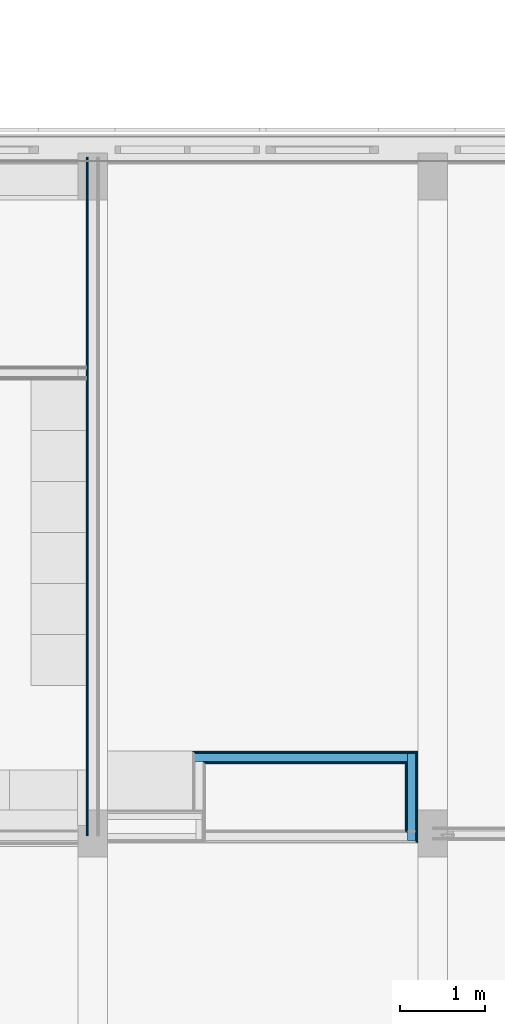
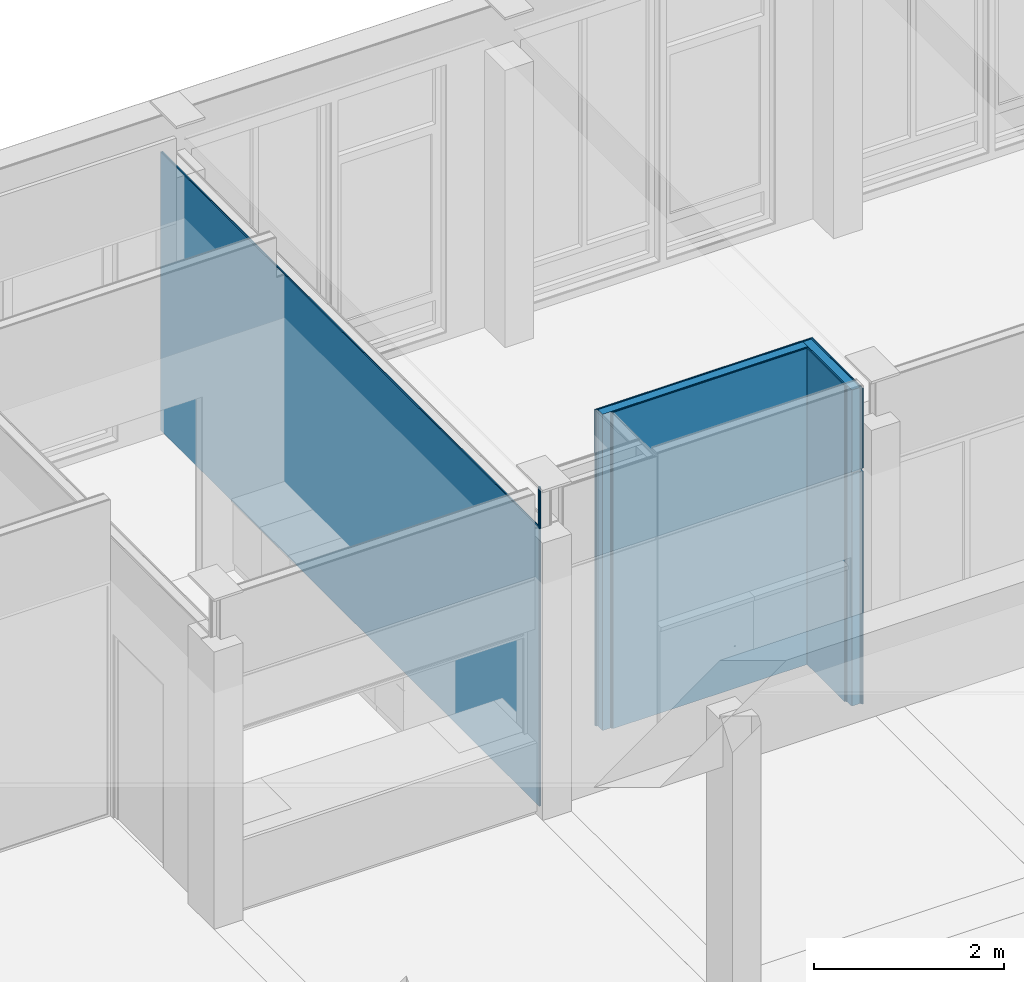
# One storey, part 70 of 109: 12 building element parts, 3 elements without a shape of their own.
"""IFC2X3 building model written with IfcOpenShell, lengths in millimetres."""

from ifc_helpers import new_model, entity, si_unit, converted_unit, derived_unit, money_unit, direction, frame, origin_with_axes, place, context, subcontext, project, spatial, faceted_brep, material, type_object, element, aggregate, save


model = new_model("IFC2X3")

# Units and contexts
model_context = context("Model", 3, precision=0.01, world=origin_with_axes(), true_north=direction((0.0, 1.0)))
body_context = subcontext(model_context, "Body", "Model", "MODEL_VIEW")
ifc_project = project(units=[si_unit("LENGTHUNIT", "METRE", prefix="MILLI"), si_unit("AREAUNIT", "SQUARE_METRE"), si_unit("VOLUMEUNIT", "CUBIC_METRE"), converted_unit("PLANEANGLEUNIT", "DEGREE", entity("IfcPlaneAngleMeasure", 0.0174532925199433), si_unit("PLANEANGLEUNIT", "RADIAN"), dimensions=[0, 0, 0, 0, 0, 0, 0]), money_unit("EUR"), converted_unit("TIMEUNIT", "Year", entity("IfcTimeMeasure", 31557600.0), si_unit("TIMEUNIT", "SECOND"), dimensions=[0, 0, 1, 0, 0, 0, 0]), si_unit("MASSUNIT", "GRAM", prefix="KILO"), si_unit("THERMODYNAMICTEMPERATUREUNIT", "DEGREE_CELSIUS"), si_unit("LUMINOUSINTENSITYUNIT", "LUMEN"), si_unit("ENERGYUNIT", "JOULE", prefix="MEGA"), derived_unit("THERMALCONDUCTANCEUNIT", [(si_unit("POWERUNIT", "WATT"), 1), (si_unit("LENGTHUNIT", "METRE"), -1), (si_unit("THERMODYNAMICTEMPERATUREUNIT", "KELVIN"), -1)]), derived_unit("SPECIFICHEATCAPACITYUNIT", [(si_unit("ENERGYUNIT", "JOULE"), 1), (si_unit("MASSUNIT", "GRAM", prefix="KILO"), -1), (si_unit("THERMODYNAMICTEMPERATUREUNIT", "KELVIN"), -1)]), derived_unit("MASSDENSITYUNIT", [(si_unit("MASSUNIT", "GRAM", prefix="KILO"), 1), (si_unit("VOLUMEUNIT", "CUBIC_METRE"), -1)])], contexts=[model_context])

# Site, building, storey
site_placement = place(None, origin_with_axes())
site = spatial("IfcSite", under=ifc_project, at=site_placement, Name="<site naam>", CompositionType="ELEMENT")
building_placement = place(site_placement, origin_with_axes())
building = spatial("IfcBuilding", under=site, at=building_placement, Name="<Naam gebouw>", CompositionType="ELEMENT")
storey_placement = place(building_placement, origin_with_axes())
storey = spatial("IfcBuildingStorey", under=building, at=storey_placement, Name="00 Begane grond", CompositionType="ELEMENT", Elevation=0.0)

# Wall, building element parts
wall_type = type_object("IfcWallType", Name="MS-01 GF 150 ECO DGS/2.100.2.A 150", PredefinedType="NOTDEFINED")
wall_1_placement = place(storey_placement, frame((28000.00000000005, 19953.886585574, 0.0), z_axis=(0.0, 0.0, 1.0), x_axis=(0.0, -1.0, 0.0)))
wall_1 = element("IfcWall", 1, at=wall_1_placement, inside=storey, type_object=wall_type, Name="22_Binnenwand_MS-01")
ifc_material_1 = material(Name="gipsplaat")
building_element_part_1_placement = place(wall_1_placement, origin_with_axes())
building_element_part_1 = element("IfcBuildingElementPart", 2, at=building_element_part_1_placement, material=ifc_material_1, Name="gipsplaat", context=body_context, shape_type="Brep", body=[
    faceted_brep([(0.0, -62.5, 3585.000000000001), (0.0, -50.00000000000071, 3585.000000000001), (0.0, -50.00000000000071, 0.0), (0.0, -62.5, 0.0), (7953.88658557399, -50.00000000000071, 3585.000000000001), (7953.88658557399, -62.5, 3585.000000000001), (7953.88658557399, -50.00000000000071, 4100.000000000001), (7982.269769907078, -50.00000000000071, 4100.000000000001), (7982.269769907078, -50.00000000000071, 0.0), (7982.269769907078, -62.5, 0.0), (7982.269769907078, -62.5, 4100.000000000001), (7953.88658557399, -62.5, 4100.000000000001)], [[[0, 1, 2, 3]], [[4, 1, 0, 5]], [[4, 6, 7, 8, 2, 1]], [[3, 2, 8, 9]], [[5, 0, 3, 9, 10, 11]], [[11, 6, 4, 5]], [[6, 11, 10, 7]], [[8, 7, 10, 9]]]),
])
building_element_part_2_placement = place(wall_1_placement, origin_with_axes())
building_element_part_2 = element("IfcBuildingElementPart", 3, at=building_element_part_2_placement, material=ifc_material_1, Name="gipsplaat", context=body_context, shape_type="Brep", body=[
    faceted_brep([(0.0, -74.99999999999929, 3585.000000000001), (0.0, -62.5, 3585.000000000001), (0.0, -62.5, 0.0), (0.0, -74.99999999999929, 0.0), (7953.88658557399, -62.5, 3585.000000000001), (7953.88658557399, -74.99999999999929, 3585.000000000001), (7953.88658557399, -62.5, 4100.000000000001), (7982.269769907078, -62.5, 4100.000000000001), (7982.269769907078, -62.5, 0.0), (7982.269769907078, -74.99999999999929, 0.0), (7982.269769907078, -74.99999999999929, 4100.000000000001), (7953.88658557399, -74.99999999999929, 4100.000000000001)], [[[0, 1, 2, 3]], [[4, 1, 0, 5]], [[4, 6, 7, 8, 2, 1]], [[3, 2, 8, 9]], [[5, 0, 3, 9, 10, 11]], [[11, 6, 4, 5]], [[6, 11, 10, 7]], [[8, 7, 10, 9]]]),
])
aggregate(wall_1, [building_element_part_1, building_element_part_2])

wall_2_placement = place(storey_placement, frame((31824.38242510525, 11964.67036517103, 0.0), z_axis=(0.0, 0.0, 1.0), x_axis=(0.0, 1.0, 0.0)))
wall_2 = element("IfcWall", 4, at=wall_2_placement, inside=storey, type_object=wall_type, Name="22_Binnenwand_MS-01")
building_element_part_3_placement = place(wall_2_placement, origin_with_axes())
building_element_part_3 = element("IfcBuildingElementPart", 5, at=building_element_part_3_placement, material=ifc_material_1, Name="gipsplaat", context=body_context, shape_type="Brep", body=[
    faceted_brep([(867.0793248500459, 149.9999999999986, 0.0), (867.0793248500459, 137.4999999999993, 0.0), (62.5, 137.4999999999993, 0.0), (62.5, 149.9999999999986, 0.0), (867.0793248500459, 149.9999999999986, 4070.0), (867.0793248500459, 137.4999999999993, 4070.0), (62.5, 137.4999999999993, 4070.0), (62.5, 149.9999999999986, 4070.0)], [[[0, 1, 2, 3]], [[1, 0, 4, 5]], [[1, 5, 6, 2]], [[7, 3, 2, 6]], [[4, 0, 3, 7]], [[5, 4, 7, 6]]]),
])
ifc_material_2 = material(Name="isolatie_steenwol LSW")
building_element_part_4_placement = place(wall_2_placement, origin_with_axes())
building_element_part_4 = element("IfcBuildingElementPart", 6, at=building_element_part_4_placement, material=ifc_material_2, Name="isolatie_steenwol LSW", context=body_context, shape_type="Brep", body=[
    faceted_brep([(-34.14980728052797, 24.99999999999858, 3.000000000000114), (-34.14980728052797, 24.99999999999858, 0.0), (979.5793248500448, 24.99999999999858, 0.0), (979.5793248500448, 24.99999999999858, 4070.0), (-50.00000000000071, 24.99999999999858, 4070.0), (-50.00000000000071, 24.99999999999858, 3040.0), (-42.59824479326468, 24.99999999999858, 3040.0), (-42.59824479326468, 24.99999999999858, 3000.0), (-50.00000000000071, 24.99999999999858, 3000.0), (-50.00000000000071, 24.99999999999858, 3.000000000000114), (-34.14980728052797, 125.0, 3.000000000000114), (-34.14980728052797, 125.0, 0.0), (979.5793248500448, 125.0, 0.0), (979.5793248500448, 125.0, 4070.0), (-50.00000000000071, 125.0, 4070.0), (-50.00000000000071, 125.0, 3040.0), (-42.59824479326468, 125.0, 3040.0), (-42.59824479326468, 125.0, 3000.0), (-50.00000000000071, 125.0, 3000.0), (-50.00000000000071, 125.0, 3.000000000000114)], [[[0, 1, 2, 3, 4, 5, 6, 7, 8, 9]], [[1, 0, 10, 11]], [[1, 11, 12, 2]], [[2, 12, 13, 3]], [[3, 13, 14, 4]], [[15, 5, 4, 14]], [[6, 5, 15, 16]], [[7, 6, 16, 17]], [[8, 7, 17, 18]], [[19, 9, 8, 18]], [[0, 9, 19, 10]], [[10, 19, 18, 17, 16, 15, 14, 13, 12, 11]]]),
])
building_element_part_5_placement = place(wall_2_placement, origin_with_axes())
building_element_part_5 = element("IfcBuildingElementPart", 7, at=building_element_part_5_placement, material=ifc_material_1, Name="gipsplaat", context=body_context, shape_type="Brep", body=[
    faceted_brep([(879.5793248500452, 137.4999999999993, 0.0), (879.5793248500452, 125.0, 0.0), (50.00000000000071, 125.0, 0.0), (50.00000000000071, 137.4999999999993, 0.0), (879.5793248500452, 137.4999999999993, 4070.0), (879.5793248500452, 125.0, 4070.0), (50.00000000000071, 125.0, 4070.0), (50.00000000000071, 137.4999999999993, 4070.0)], [[[0, 1, 2, 3]], [[1, 0, 4, 5]], [[1, 5, 6, 2]], [[7, 3, 2, 6]], [[4, 0, 3, 7]], [[5, 4, 7, 6]]]),
])

wall_3_placement = place(storey_placement, frame((31824.38242510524, 12969.24969002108, 0.0), z_axis=(0.0, 0.0, 1.0), x_axis=(-1.0, 0.0, 0.0)))
wall_3 = element("IfcWall", 8, at=wall_3_placement, inside=storey, type_object=wall_type, Name="22_Binnenwand_MS-01")
building_element_part_6_placement = place(wall_3_placement, origin_with_axes())
building_element_part_6 = element("IfcBuildingElementPart", 9, at=building_element_part_6_placement, material=ifc_material_1, Name="gipsplaat", context=body_context, shape_type="Brep", body=[
    faceted_brep([(2512.395292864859, 150.0000000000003, 0.0), (2512.404058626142, 137.4999999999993, 0.0), (149.999999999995, 137.4999999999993, 0.0), (149.999999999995, 150.0000000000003, 0.0), (2512.395292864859, 150.0000000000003, 4070.0), (2512.404058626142, 137.4999999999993, 4070.0), (149.999999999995, 137.5000000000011, 4070.0), (149.999999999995, 150.0000000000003, 4070.0)], [[[0, 1, 2, 3]], [[1, 0, 4, 5]], [[1, 5, 6, 2]], [[7, 3, 2, 6]], [[4, 0, 3, 7]], [[5, 4, 7, 6]]]),
])
building_element_part_7_placement = place(wall_3_placement, origin_with_axes())
building_element_part_7 = element("IfcBuildingElementPart", 10, at=building_element_part_7_placement, material=ifc_material_1, Name="gipsplaat", context=body_context, shape_type="Brep", body=[
    faceted_brep([(2524.904061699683, 137.4999999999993, 0.0), (2524.912827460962, 125.0, 0.0), (137.4999999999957, 125.0, 0.0), (137.4999999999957, 137.4999999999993, 0.0), (2524.904061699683, 137.4999999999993, 4070.0), (2524.912827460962, 125.0, 4070.0), (137.4999999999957, 125.0, 4070.0), (137.4999999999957, 137.5000000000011, 4070.0)], [[[0, 1, 2, 3]], [[1, 0, 4, 5]], [[1, 5, 6, 2]], [[7, 3, 2, 6]], [[4, 0, 3, 7]], [[5, 4, 7, 6]]]),
])
building_element_part_8_placement = place(wall_3_placement, origin_with_axes())
building_element_part_8 = element("IfcBuildingElementPart", 11, at=building_element_part_8_placement, material=ifc_material_2, Name="isolatie_steenwol LSW", context=body_context, shape_type="Brep", body=[
    faceted_brep([(2624.912852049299, 125.0, 0.0), (2624.982978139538, 25.00000000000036, 0.0), (124.9999999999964, 25.00000000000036, 0.0), (124.9999999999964, 125.0, 0.0), (2624.912852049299, 125.0, 4070.0), (2624.982978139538, 25.00000000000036, 4070.0), (124.9999999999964, 25.00000000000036, 4070.0), (124.9999999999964, 125.0, 4070.0)], [[[0, 1, 2, 3]], [[1, 0, 4, 5]], [[1, 5, 6, 2]], [[7, 3, 2, 6]], [[4, 0, 3, 7]], [[5, 4, 7, 6]]]),
])

# Building element part
building_element_part_9_placement = place(wall_2_placement, origin_with_axes())
building_element_part_9 = element("IfcBuildingElementPart", 12, at=building_element_part_9_placement, material=ifc_material_1, Name="gipsplaat", context=body_context, shape_type="Brep", body=[
    faceted_brep([(-34.14980728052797, 12.49999999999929, 3.000000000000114), (-34.14980728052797, 12.49999999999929, 0.0), (992.0793248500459, 12.49999999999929, 0.0), (992.0793248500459, 12.49999999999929, 4070.0), (-62.5, 12.49999999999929, 4070.0), (-62.5, 12.49999999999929, 3040.0), (-42.59824479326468, 12.49999999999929, 3040.0), (-42.59824479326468, 12.49999999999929, 3000.0), (-62.5, 12.49999999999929, 3000.0), (-62.5, 12.49999999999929, 3.000000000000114), (-34.14980728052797, 24.99999999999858, 3.000000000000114), (-34.14980728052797, 24.99999999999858, 0.0), (992.0793248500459, 24.99999999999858, 0.0), (992.0793248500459, 24.99999999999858, 4070.0), (-62.5, 24.99999999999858, 4070.0), (-62.5, 24.99999999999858, 3040.0), (-42.59824479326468, 24.99999999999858, 3040.0), (-42.59824479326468, 24.99999999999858, 3000.0), (-62.5, 24.99999999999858, 3000.0), (-62.5, 24.99999999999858, 3.000000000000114)], [[[0, 1, 2, 3, 4, 5, 6, 7, 8, 9]], [[1, 0, 10, 11]], [[1, 11, 12, 2]], [[2, 12, 13, 3]], [[3, 13, 14, 4]], [[15, 5, 4, 14]], [[6, 5, 15, 16]], [[7, 6, 16, 17]], [[8, 7, 17, 18]], [[19, 9, 8, 18]], [[0, 9, 19, 10]], [[10, 19, 18, 17, 16, 15, 14, 13, 12, 11]]]),
])

building_element_part_10_placement = place(wall_3_placement, origin_with_axes())
building_element_part_10 = element("IfcBuildingElementPart", 13, at=building_element_part_10_placement, material=ifc_material_1, Name="gipsplaat", context=body_context, shape_type="Brep", body=[
    faceted_brep([(2649.513634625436, 6.965971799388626e-05, 3.000000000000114), (2650.000515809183, 0.0, 3.000000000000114), (2650.000515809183, 0.0, 4070.0), (12.49999999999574, 0.0, 4070.0), (12.49999999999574, 0.0, 0.0), (2649.513634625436, 6.965971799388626e-05, 0.0), (2649.513634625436, 12.49999999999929, 3.000000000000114), (2649.991750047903, 12.49999999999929, 3.000000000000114), (2649.991750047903, 12.49999999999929, 4070.0), (12.49999999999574, 12.50000000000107, 4070.0), (12.49999999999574, 12.49999999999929, 0.0), (2649.513634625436, 12.49999999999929, 0.0)], [[[0, 1, 2, 3, 4, 5]], [[1, 0, 6, 7]], [[1, 7, 8, 2]], [[2, 8, 9, 3]], [[9, 10, 4, 3]], [[11, 5, 4, 10]], [[0, 5, 11, 6]], [[6, 11, 10, 9, 8, 7]]]),
])

building_element_part_11_placement = place(wall_3_placement, origin_with_axes())
building_element_part_11 = element("IfcBuildingElementPart", 14, at=building_element_part_11_placement, material=ifc_material_1, Name="gipsplaat", context=body_context, shape_type="Brep", body=[
    faceted_brep([(2637.482981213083, 25.00000000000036, 0.0), (2637.491746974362, 12.49999999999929, 0.0), (24.99999999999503, 12.49999999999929, 0.0), (24.99999999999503, 25.00000000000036, 0.0), (2637.482981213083, 25.00000000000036, 4070.0), (2637.491746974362, 12.49999999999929, 4070.0), (24.99999999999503, 12.50000000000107, 4070.0), (24.99999999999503, 25.00000000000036, 4070.0)], [[[0, 1, 2, 3]], [[1, 0, 4, 5]], [[1, 5, 6, 2]], [[7, 3, 2, 6]], [[4, 0, 3, 7]], [[5, 4, 7, 6]]]),
])

aggregate(wall_3, [building_element_part_6, building_element_part_7, building_element_part_8, building_element_part_10, building_element_part_11])

building_element_part_12_placement = place(wall_2_placement, origin_with_axes())
building_element_part_12 = element("IfcBuildingElementPart", 15, at=building_element_part_12_placement, material=ifc_material_1, Name="gipsplaat", context=body_context, shape_type="Brep", body=[
    faceted_brep([(-34.14980728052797, 0.0, 3.000000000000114), (-34.14980728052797, 0.0, 0.0), (1004.579324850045, 0.0, 0.0), (1004.579324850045, 0.0, 4070.0), (-74.99999999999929, 0.0, 4070.0), (-74.99999999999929, 0.0, 3040.0), (-42.59824479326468, 0.0, 3040.0), (-42.59824479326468, 0.0, 3000.0), (-74.99999999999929, 0.0, 3000.0), (-74.99999999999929, 0.0, 3.000000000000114), (-34.14980728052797, 12.49999999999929, 3.000000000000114), (-34.14980728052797, 12.49999999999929, 0.0), (1004.579324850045, 12.49999999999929, 0.0), (1004.579324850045, 12.49999999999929, 4070.0), (-74.99999999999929, 12.49999999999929, 4070.0), (-74.99999999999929, 12.49999999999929, 3040.0), (-42.59824479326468, 12.49999999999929, 3040.0), (-42.59824479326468, 12.49999999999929, 3000.0), (-74.99999999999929, 12.49999999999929, 3000.0), (-74.99999999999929, 12.49999999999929, 3.000000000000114)], [[[0, 1, 2, 3, 4, 5, 6, 7, 8, 9]], [[1, 0, 10, 11]], [[1, 11, 12, 2]], [[2, 12, 13, 3]], [[3, 13, 14, 4]], [[15, 5, 4, 14]], [[6, 5, 15, 16]], [[7, 6, 16, 17]], [[8, 7, 17, 18]], [[19, 9, 8, 18]], [[0, 9, 19, 10]], [[10, 19, 18, 17, 16, 15, 14, 13, 12, 11]]]),
])

aggregate(wall_2, [building_element_part_3, building_element_part_4, building_element_part_5, building_element_part_9, building_element_part_12])

save(model, "model.ifc")
